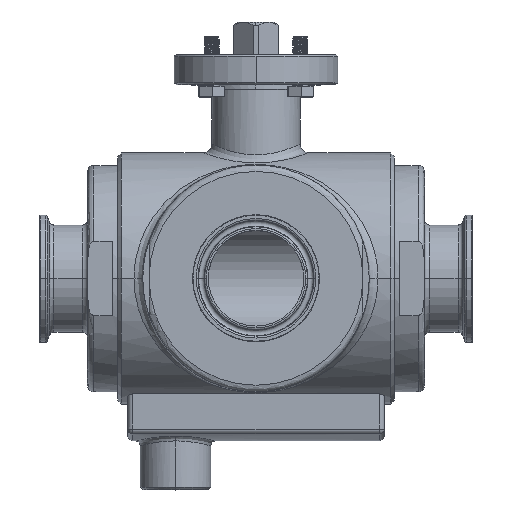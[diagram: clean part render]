
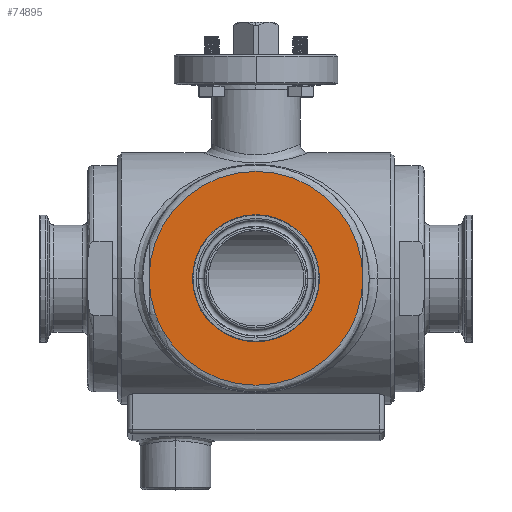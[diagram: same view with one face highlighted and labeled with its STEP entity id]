
A CAD part, top view. The second image highlights one B-rep face of the part: STEP entity #74895.
In plain terms, the highlighted planar face has unit normal (0, 0, 1).
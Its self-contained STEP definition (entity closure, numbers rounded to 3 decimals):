
#24680=CARTESIAN_POINT('',(0.,0.,67.));
#24681=DIRECTION('',(0.,0.,1.));
#24682=DIRECTION('',(-1.,0.,0.));
#24683=AXIS2_PLACEMENT_3D('',#24680,#24681,#24682);
#24762=CARTESIAN_POINT('',(0.,0.,67.));
#24763=DIRECTION('',(0.,0.,-1.));
#24764=DIRECTION('',(-1.,0.,0.));
#24765=AXIS2_PLACEMENT_3D('',#24762,#24763,#24764);
#24824=CARTESIAN_POINT('',(0.,0.,67.));
#24825=DIRECTION('',(0.,0.,-1.));
#24826=DIRECTION('',(-1.,0.,0.));
#24827=AXIS2_PLACEMENT_3D('',#24824,#24825,#24826);
#24840=CARTESIAN_POINT('',(0.,0.,67.));
#24841=DIRECTION('',(0.,0.,1.));
#24842=DIRECTION('',(-1.,0.,0.));
#24843=AXIS2_PLACEMENT_3D('',#24840,#24841,#24842);
#51698=CARTESIAN_POINT('',(-42.5,0.,67.));
#51699=CARTESIAN_POINT('',(42.5,0.,67.));
#51700=VERTEX_POINT('',#51698);
#51701=VERTEX_POINT('',#51699);
#51706=CARTESIAN_POINT('',(-23.3,0.,67.));
#51707=CARTESIAN_POINT('',(23.3,0.,67.));
#51708=VERTEX_POINT('',#51706);
#51709=VERTEX_POINT('',#51707);
#74879=CARTESIAN_POINT('',(0.,0.,67.));
#74880=DIRECTION('',(0.,0.,1.));
#74881=DIRECTION('',(1.,0.,0.));
#74882=AXIS2_PLACEMENT_3D('',#74879,#74880,#74881);
#74883=PLANE('',#74882);
#74884=ORIENTED_EDGE('',*,*,#74872,.F.);
#74886=ORIENTED_EDGE('',*,*,#74885,.T.);
#74887=EDGE_LOOP('',(#74884,#74886));
#74888=FACE_OUTER_BOUND('',#74887,.F.);
#74890=ORIENTED_EDGE('',*,*,#74889,.F.);
#74892=ORIENTED_EDGE('',*,*,#74891,.T.);
#74893=EDGE_LOOP('',(#74890,#74892));
#74894=FACE_BOUND('',#74893,.F.);
#74895=ADVANCED_FACE('',(#74888,#74894),#74883,.T.);
#24684=CIRCLE('',#24683,42.5);
#24766=CIRCLE('',#24765,42.5);
#24828=CIRCLE('',#24827,23.3);
#24844=CIRCLE('',#24843,23.3);
#74872=EDGE_CURVE('',#51700,#51701,#24684,.T.);
#74885=EDGE_CURVE('',#51700,#51701,#24766,.T.);
#74889=EDGE_CURVE('',#51708,#51709,#24828,.T.);
#74891=EDGE_CURVE('',#51708,#51709,#24844,.T.);
